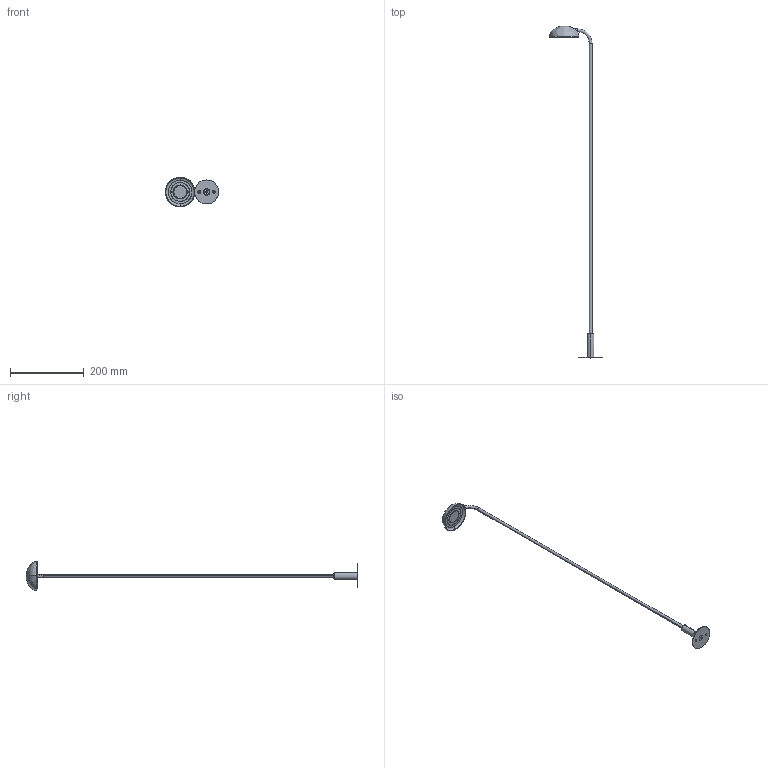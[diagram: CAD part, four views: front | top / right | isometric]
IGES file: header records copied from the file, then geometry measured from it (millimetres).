
Start section: SolidWorks IGES file using analytic representation for surfaces
Global section: file name: L:\Tecnico_PMT\R&D\PROGETTI ROADMAP 2024\OUTDOOR -METIS\Documentazione\3D per sito\MIRTILLA\3D per sito_Mirtilla 900mm.IGS; native system: SolidWorks 2016; preprocessor: SolidWorks 2016; author: MartinaCorneroILTI; date: 260204.170058; units: millimetre
Bounding box: 144.1 x 899.69 x 79.99 mm (x, y, z)
Surface area: 69306.8 mm2 (no closed solid volume)
Topology: 0 solids, 0 shells, 119 faces, 2802 edges, 2796 vertices
Faces by surface type: revolution 74, bspline 45
